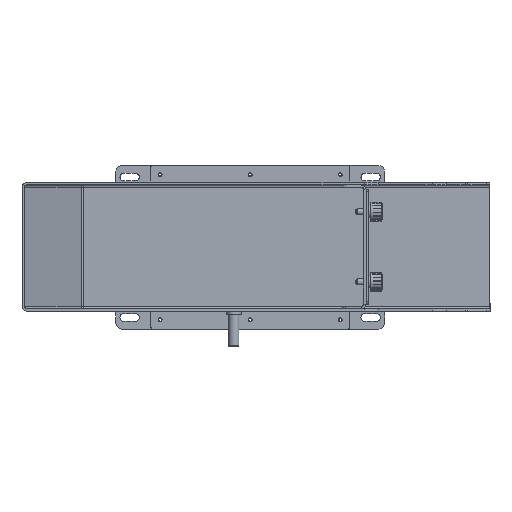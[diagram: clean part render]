
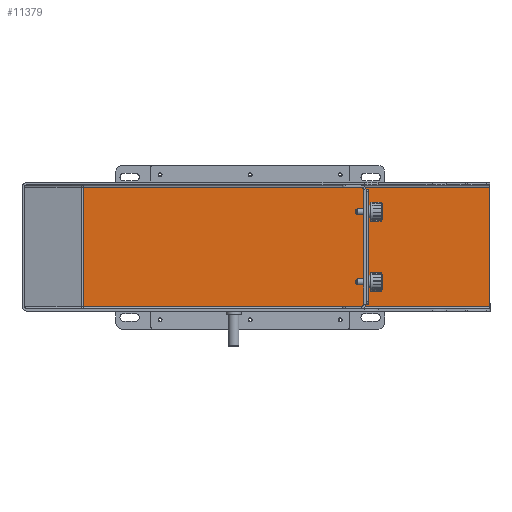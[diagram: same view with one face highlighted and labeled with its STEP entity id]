
A CAD part, top view. The second image highlights one B-rep face of the part: STEP entity #11379.
In plain terms, the highlighted planar face has unit normal (0, 0, 1) as drawn and (1, 0, 0) by its records, which use the part's own axes.
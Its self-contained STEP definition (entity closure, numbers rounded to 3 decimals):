
#1093=FACE_OUTER_BOUND('',#1857,.T.);
#1857=EDGE_LOOP('',(#9577,#9578,#9579,#9580));
#3459=LINE('',#18969,#4460);
#3460=LINE('',#18972,#4461);
#3467=LINE('',#18997,#4468);
#3468=LINE('',#18999,#4469);
#4460=VECTOR('',#15415,10.);
#4461=VECTOR('',#15418,10.);
#4468=VECTOR('',#15441,10.);
#4469=VECTOR('',#15444,10.);
#5435=VERTEX_POINT('',#18929);
#5449=VERTEX_POINT('',#18965);
#5450=VERTEX_POINT('',#18971);
#5460=VERTEX_POINT('',#18995);
#6869=EDGE_CURVE('',#5449,#5435,#3459,.T.);
#6870=EDGE_CURVE('',#5450,#5449,#3460,.T.);
#6883=EDGE_CURVE('',#5435,#5460,#3467,.T.);
#6884=EDGE_CURVE('',#5450,#5460,#3468,.T.);
#9577=ORIENTED_EDGE('',*,*,#6883,.T.);
#9578=ORIENTED_EDGE('',*,*,#6884,.F.);
#9579=ORIENTED_EDGE('',*,*,#6870,.T.);
#9580=ORIENTED_EDGE('',*,*,#6869,.T.);
#10851=PLANE('',#12646);
#11379=ADVANCED_FACE('',(#1093),#10851,.T.);
#12646=AXIS2_PLACEMENT_3D('',#18998,#15442,#15443);
#15415=DIRECTION('',(0.,1.,0.));
#15418=DIRECTION('',(0.,0.,-1.));
#15441=DIRECTION('',(0.,0.,1.));
#15442=DIRECTION('center_axis',(1.,0.,0.));
#15443=DIRECTION('ref_axis',(0.,0.,-1.));
#15444=DIRECTION('',(0.,1.,0.));
#18929=CARTESIAN_POINT('',(2.,51.,-147.528));
#18965=CARTESIAN_POINT('',(2.,-51.,-147.528));
#18969=CARTESIAN_POINT('',(2.,-27.5,-147.528));
#18971=CARTESIAN_POINT('',(2.,-51.,200.));
#18972=CARTESIAN_POINT('',(2.,-51.,100.));
#18995=CARTESIAN_POINT('',(2.,51.,200.));
#18997=CARTESIAN_POINT('',(2.,51.,-100.));
#18998=CARTESIAN_POINT('Origin',(2.,0.,0.));
#18999=CARTESIAN_POINT('',(2.,27.5,200.));
